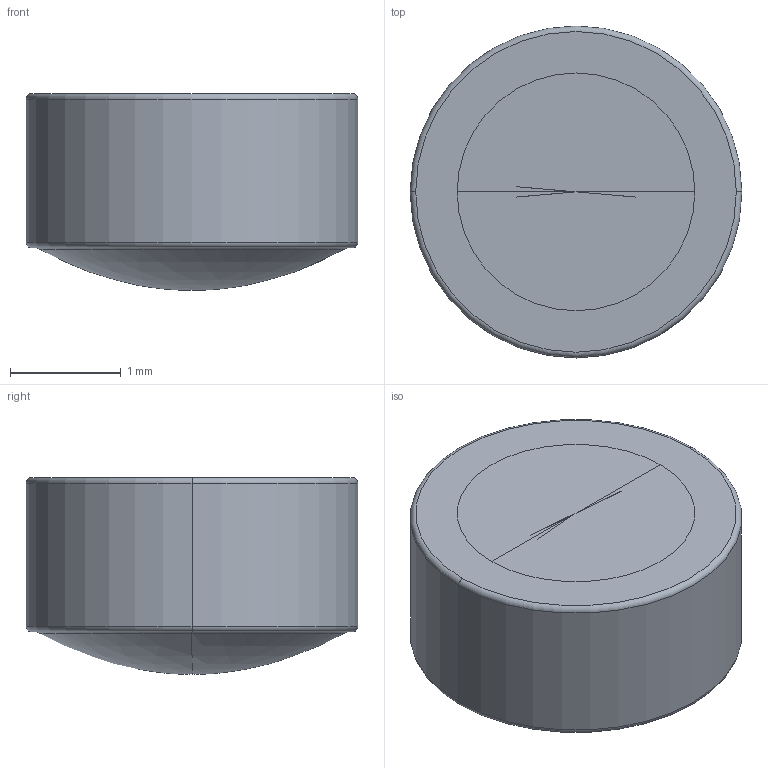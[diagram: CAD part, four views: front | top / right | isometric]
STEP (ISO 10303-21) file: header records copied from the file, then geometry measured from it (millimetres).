
FILE_DESCRIPTION((''),'2;1');
FILE_NAME('354996','2025-07-24T21:26:31',('admin'),('LIGHTPATH'),'CREO PARAMETRIC BY PTC INC, 2024063','CREO PARAMETRIC BY PTC INC, 2024063','');
FILE_SCHEMA(('CONFIG_CONTROL_DESIGN'));
Length unit declared in the file: millimetre
Products named in the file (1): 354996
Bounding box: 3 x 3 x 1.78 mm (x, y, z)
Volume: 11 mm3; surface area: 27.3 mm2
Topology: 1 solids, 1 shells, 14 faces, 30 edges, 16 vertices
Faces by surface type: torus 6, revolution 4, plane 2, cylinder 2
Entity records: 665 total; most frequent: CARTESIAN_POINT 329, DIRECTION 68, ORIENTED_EDGE 52, AXIS2_PLACEMENT_3D 30, EDGE_CURVE 26, CIRCLE 20, VERTEX_POINT 16, EDGE_LOOP 16
